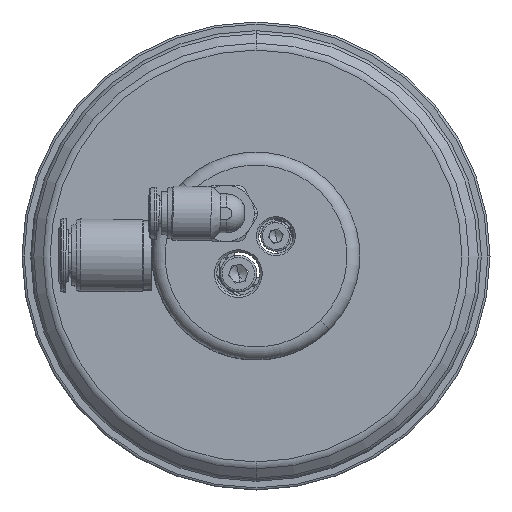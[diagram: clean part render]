
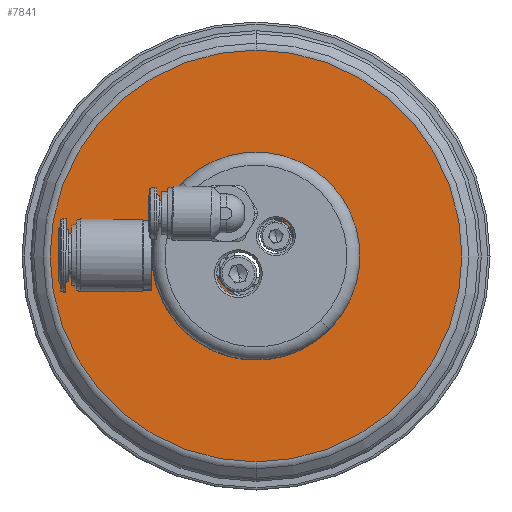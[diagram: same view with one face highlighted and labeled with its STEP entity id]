
A CAD part, front view. The second image highlights one B-rep face of the part: STEP entity #7841.
In plain terms, the highlighted planar face has unit normal (0, -1, 0).
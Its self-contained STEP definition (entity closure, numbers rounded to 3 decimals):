
#77 = EDGE_LOOP ( 'NONE', ( #12018, #19008 ) ) ;
#203 = FACE_BOUND ( 'NONE', #269, .T. ) ;
#269 = EDGE_LOOP ( 'NONE', ( #18028, #19171, #597, #3072 ) ) ;
#350 = CARTESIAN_POINT ( 'NONE',  ( 0., 0., 0. ) ) ;
#457 = EDGE_CURVE ( 'NONE', #8093, #10968, #17502, .T. ) ;
#597 = ORIENTED_EDGE ( 'NONE', *, *, #7991, .T. ) ;
#686 = ORIENTED_EDGE ( 'NONE', *, *, #5609, .T. ) ;
#1969 = CARTESIAN_POINT ( 'NONE',  ( 0., 0., 0. ) ) ;
#1998 = DIRECTION ( 'NONE',  ( 0., -1., 0. ) ) ;
#2559 = CIRCLE ( 'NONE', #15260, 10.1 ) ;
#2763 = AXIS2_PLACEMENT_3D ( 'NONE', #16712, #18502, #8451 ) ;
#3072 = ORIENTED_EDGE ( 'NONE', *, *, #9482, .T. ) ;
#3256 = EDGE_LOOP ( 'NONE', ( #10349, #4141, #4423, #14302 ) ) ;
#3285 = DIRECTION ( 'NONE',  ( 0., -1., 0. ) ) ;
#3786 = CIRCLE ( 'NONE', #2763, 11.4 ) ;
#3787 = CIRCLE ( 'NONE', #7856, 47.515 ) ;
#3809 = VERTEX_POINT ( 'NONE', #20444 ) ;
#4099 = DIRECTION ( 'NONE',  ( 0., 0., 1. ) ) ;
#4141 = ORIENTED_EDGE ( 'NONE', *, *, #19480, .T. ) ;
#4270 = CARTESIAN_POINT ( 'NONE',  ( -18.441, 0., -2.428 ) ) ;
#4423 = ORIENTED_EDGE ( 'NONE', *, *, #18496, .T. ) ;
#5104 = VERTEX_POINT ( 'NONE', #8177 ) ;
#5413 = AXIS2_PLACEMENT_3D ( 'NONE', #17697, #9449, #12685 ) ;
#5609 = EDGE_CURVE ( 'NONE', #19154, #20318, #3787, .T. ) ;
#5904 = CARTESIAN_POINT ( 'NONE',  ( -18.441, 0., 2.428 ) ) ;
#6368 = VERTEX_POINT ( 'NONE', #16841 ) ;
#6766 = FACE_BOUND ( 'NONE', #3256, .T. ) ;
#6799 = VERTEX_POINT ( 'NONE', #4270 ) ;
#6803 = CARTESIAN_POINT ( 'NONE',  ( 14.872, 0., 1.958 ) ) ;
#6901 = EDGE_CURVE ( 'NONE', #15955, #3809, #10402, .T. ) ;
#7401 = DIRECTION ( 'NONE',  ( 0., 1., 0. ) ) ;
#7510 = DIRECTION ( 'NONE',  ( 0., 0., 1. ) ) ;
#7841 = ADVANCED_FACE ( 'NONE', ( #10316, #203, #6766, #18256 ), #13358, .F. ) ;
#7856 = AXIS2_PLACEMENT_3D ( 'NONE', #11137, #1998, #8233 ) ;
#7905 = AXIS2_PLACEMENT_3D ( 'NONE', #12852, #3285, #12961 ) ;
#7991 = EDGE_CURVE ( 'NONE', #5104, #20740, #19771, .T. ) ;
#8072 = CARTESIAN_POINT ( 'NONE',  ( -14.872, 0., -1.958 ) ) ;
#8093 = VERTEX_POINT ( 'NONE', #9977 ) ;
#8177 = CARTESIAN_POINT ( 'NONE',  ( 11.302, 0., -1.488 ) ) ;
#8233 = DIRECTION ( 'NONE',  ( 0., 0., 1. ) ) ;
#8271 = AXIS2_PLACEMENT_3D ( 'NONE', #1969, #11835, #10120 ) ;
#8451 = DIRECTION ( 'NONE',  ( 0., 0., 1. ) ) ;
#8590 = AXIS2_PLACEMENT_3D ( 'NONE', #350, #10552, #13615 ) ;
#8813 = CIRCLE ( 'NONE', #19401, 3.6 ) ;
#9133 = CARTESIAN_POINT ( 'NONE',  ( 0., 0., 0. ) ) ;
#9243 = CARTESIAN_POINT ( 'NONE',  ( 0., 0., 0. ) ) ;
#9449 = DIRECTION ( 'NONE',  ( 0., -1., 0. ) ) ;
#9482 = EDGE_CURVE ( 'NONE', #20740, #14986, #8813, .T. ) ;
#9512 = DIRECTION ( 'NONE',  ( 0., 0., 1. ) ) ;
#9877 = DIRECTION ( 'NONE',  ( 0., 0., 1. ) ) ;
#9977 = CARTESIAN_POINT ( 'NONE',  ( 0., 0., -10.1 ) ) ;
#10120 = DIRECTION ( 'NONE',  ( 0., 0., 1. ) ) ;
#10316 = FACE_BOUND ( 'NONE', #77, .T. ) ;
#10349 = ORIENTED_EDGE ( 'NONE', *, *, #18958, .T. ) ;
#10402 = CIRCLE ( 'NONE', #15926, 3.6 ) ;
#10551 = CARTESIAN_POINT ( 'NONE',  ( 0., 0., 0. ) ) ;
#10552 = DIRECTION ( 'NONE',  ( 0., 1., 0. ) ) ;
#10593 = ORIENTED_EDGE ( 'NONE', *, *, #18856, .T. ) ;
#10968 = VERTEX_POINT ( 'NONE', #14104 ) ;
#11054 = EDGE_LOOP ( 'NONE', ( #10593, #686 ) ) ;
#11064 = CARTESIAN_POINT ( 'NONE',  ( 0., 0., 47.515 ) ) ;
#11137 = CARTESIAN_POINT ( 'NONE',  ( 0., 0., 0. ) ) ;
#11835 = DIRECTION ( 'NONE',  ( 0., 1., 0. ) ) ;
#12018 = ORIENTED_EDGE ( 'NONE', *, *, #15203, .T. ) ;
#12491 = EDGE_CURVE ( 'NONE', #14986, #13408, #20108, .T. ) ;
#12685 = DIRECTION ( 'NONE',  ( 0., 0., 1. ) ) ;
#12852 = CARTESIAN_POINT ( 'NONE',  ( 0., 0., 0. ) ) ;
#12867 = CARTESIAN_POINT ( 'NONE',  ( 11.302, 0., 1.488 ) ) ;
#12961 = DIRECTION ( 'NONE',  ( 0., 0., 1. ) ) ;
#13358 = PLANE ( 'NONE',  #18748 ) ;
#13408 = VERTEX_POINT ( 'NONE', #21126 ) ;
#13615 = DIRECTION ( 'NONE',  ( 0., 0., 1. ) ) ;
#13681 = AXIS2_PLACEMENT_3D ( 'NONE', #10551, #17310, #20608 ) ;
#14062 = CIRCLE ( 'NONE', #8590, 18.6 ) ;
#14104 = CARTESIAN_POINT ( 'NONE',  ( 0., 0., 10.1 ) ) ;
#14140 = CARTESIAN_POINT ( 'NONE',  ( 18.441, 0., 2.428 ) ) ;
#14302 = ORIENTED_EDGE ( 'NONE', *, *, #6901, .T. ) ;
#14341 = DIRECTION ( 'NONE',  ( 0., 1., 0. ) ) ;
#14375 = CARTESIAN_POINT ( 'NONE',  ( -14.872, 0., 1.958 ) ) ;
#14738 = DIRECTION ( 'NONE',  ( 0., 1., 0. ) ) ;
#14781 = DIRECTION ( 'NONE',  ( 0., 0., 1. ) ) ;
#14926 = EDGE_CURVE ( 'NONE', #13408, #5104, #17494, .T. ) ;
#14986 = VERTEX_POINT ( 'NONE', #14140 ) ;
#15125 = CIRCLE ( 'NONE', #7905, 47.515 ) ;
#15203 = EDGE_CURVE ( 'NONE', #10968, #8093, #2559, .T. ) ;
#15260 = AXIS2_PLACEMENT_3D ( 'NONE', #9243, #15811, #4099 ) ;
#15622 = CARTESIAN_POINT ( 'NONE',  ( 14.872, 0., -1.958 ) ) ;
#15811 = DIRECTION ( 'NONE',  ( 0., 1., 0. ) ) ;
#15926 = AXIS2_PLACEMENT_3D ( 'NONE', #14375, #17864, #9512 ) ;
#15955 = VERTEX_POINT ( 'NONE', #5904 ) ;
#16472 = CARTESIAN_POINT ( 'NONE',  ( 0., 0., -47.515 ) ) ;
#16712 = CARTESIAN_POINT ( 'NONE',  ( 0., 0., 0. ) ) ;
#16810 = DIRECTION ( 'NONE',  ( 0., 1., 0. ) ) ;
#16841 = CARTESIAN_POINT ( 'NONE',  ( -11.302, 0., -1.488 ) ) ;
#17310 = DIRECTION ( 'NONE',  ( 0., 1., 0. ) ) ;
#17494 = CIRCLE ( 'NONE', #18516, 3.6 ) ;
#17502 = CIRCLE ( 'NONE', #8271, 10.1 ) ;
#17697 = CARTESIAN_POINT ( 'NONE',  ( 0., 0., 0. ) ) ;
#17853 = AXIS2_PLACEMENT_3D ( 'NONE', #8072, #14738, #9877 ) ;
#17864 = DIRECTION ( 'NONE',  ( 0., 1., 0. ) ) ;
#18028 = ORIENTED_EDGE ( 'NONE', *, *, #12491, .T. ) ;
#18256 = FACE_OUTER_BOUND ( 'NONE', #11054, .T. ) ;
#18496 = EDGE_CURVE ( 'NONE', #6799, #15955, #14062, .T. ) ;
#18502 = DIRECTION ( 'NONE',  ( 0., -1., 0. ) ) ;
#18516 = AXIS2_PLACEMENT_3D ( 'NONE', #15622, #14341, #20502 ) ;
#18748 = AXIS2_PLACEMENT_3D ( 'NONE', #9133, #7401, #7510 ) ;
#18856 = EDGE_CURVE ( 'NONE', #20318, #19154, #15125, .T. ) ;
#18869 = CIRCLE ( 'NONE', #17853, 3.6 ) ;
#18958 = EDGE_CURVE ( 'NONE', #3809, #6368, #3786, .T. ) ;
#19008 = ORIENTED_EDGE ( 'NONE', *, *, #457, .T. ) ;
#19154 = VERTEX_POINT ( 'NONE', #16472 ) ;
#19171 = ORIENTED_EDGE ( 'NONE', *, *, #14926, .T. ) ;
#19401 = AXIS2_PLACEMENT_3D ( 'NONE', #6803, #16810, #14781 ) ;
#19480 = EDGE_CURVE ( 'NONE', #6368, #6799, #18869, .T. ) ;
#19771 = CIRCLE ( 'NONE', #5413, 11.4 ) ;
#20108 = CIRCLE ( 'NONE', #13681, 18.6 ) ;
#20318 = VERTEX_POINT ( 'NONE', #11064 ) ;
#20444 = CARTESIAN_POINT ( 'NONE',  ( -11.302, 0., 1.488 ) ) ;
#20502 = DIRECTION ( 'NONE',  ( 0., 0., 1. ) ) ;
#20608 = DIRECTION ( 'NONE',  ( 0., 0., 1. ) ) ;
#20740 = VERTEX_POINT ( 'NONE', #12867 ) ;
#21126 = CARTESIAN_POINT ( 'NONE',  ( 18.441, 0., -2.428 ) ) ;
